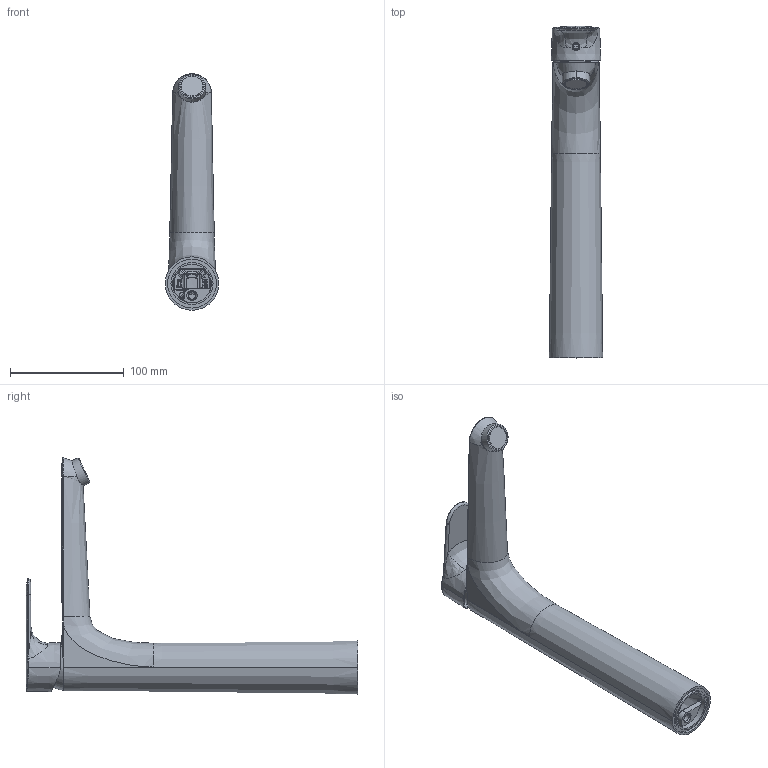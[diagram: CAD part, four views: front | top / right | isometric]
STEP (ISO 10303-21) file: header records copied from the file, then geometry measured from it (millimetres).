
FILE_DESCRIPTION((''),'2;1');
FILE_NAME('F3831_H_FILE_3D','2017-11-28T',('ivanv'),(''),'CREO PARAMETRIC BY PTC INC, 2016260','CREO PARAMETRIC BY PTC INC, 2016260','');
FILE_SCHEMA(('CONFIG_CONTROL_DESIGN'));
Length unit declared in the file: millimetre
Products named in the file (1): F3831_H_FILE_3D
Bounding box: 47 x 291.7 x 207.95 mm (x, y, z)
Volume: 180460.7 mm3; surface area: 120397.1 mm2
Topology: 2 solids, 2 shells, 1190 faces, 3109 edges, 1955 vertices
Faces by surface type: plane 676, bspline 263, cylinder 127, cone 52, torus 40, sphere 32
Entity records: 55785 total; most frequent: CARTESIAN_POINT 29666, ORIENTED_EDGE 6214, DIRECTION 4224, EDGE_CURVE 3107, VERTEX_POINT 1955, AXIS2_PLACEMENT_3D 1423, VECTOR 1378, LINE 1378
